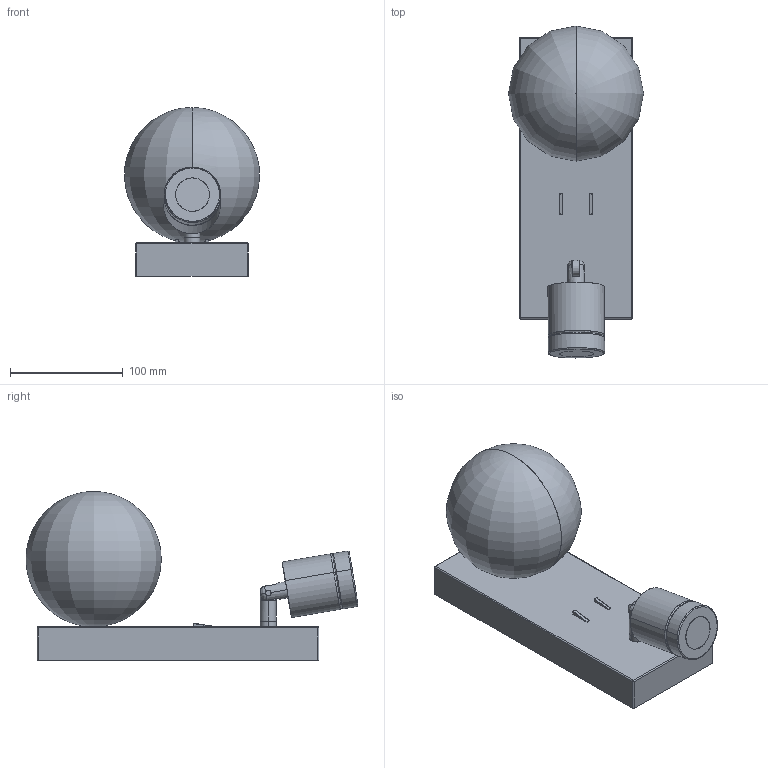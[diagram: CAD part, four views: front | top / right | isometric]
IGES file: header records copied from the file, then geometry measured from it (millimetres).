
Start section: SolidWorks IGES file using analytic representation for surfaces
Global section: file name: C:\Users\Agustin\Desktop\ENERO 2025\2D-3D\2D-3D TEA_1337\TEA_A1337_2\TEA_A1337_2.IGS; native system: SolidWorks 2018; preprocessor: SolidWorks 2018; author: Agustin; date: 250306.164636; units: millimetre
Bounding box: 119.95 x 294.67 x 150 mm (x, y, z)
Surface area: 144159.3 mm2 (no closed solid volume)
Topology: 0 solids, 0 shells, 106 faces, 1856 edges, 1850 vertices
Faces by surface type: bspline 55, revolution 51
